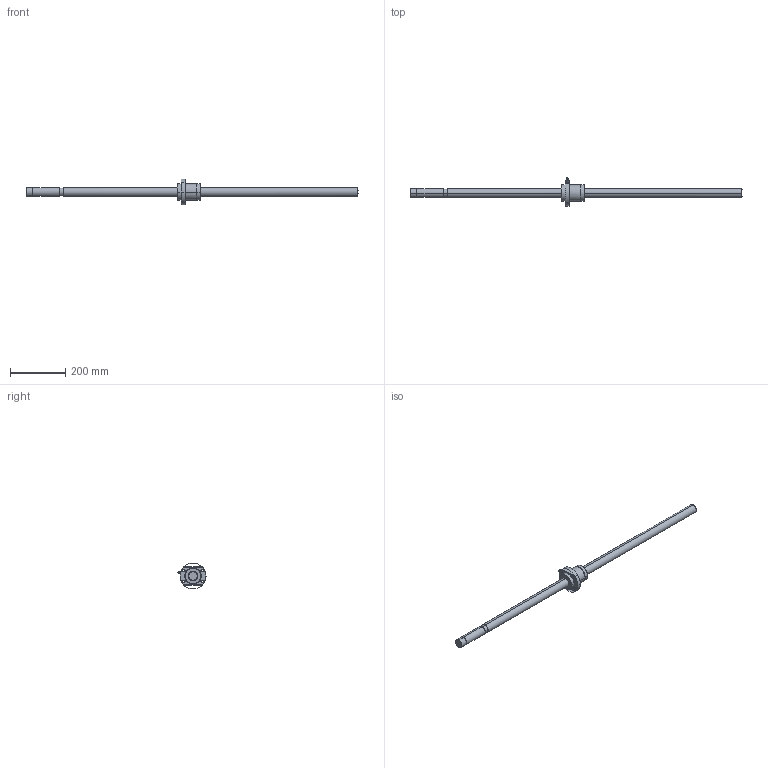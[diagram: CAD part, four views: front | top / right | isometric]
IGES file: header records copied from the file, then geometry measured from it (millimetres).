
Global section: file name: No Iges File Name specified; native system: AutoDesk Inventor R10; preprocessor: AutoDesk Inventor Iges Exporter R10; author: No Author specified; organization: No Organization specified; date: 20101224.134726; units: millimetre
Bounding box: 1200 x 101.33 x 93.94 mm (x, y, z)
Surface area: 161752.2 mm2 (no closed solid volume)
Topology: 0 solids, 0 shells, 78 faces, 478 edges, 474 vertices
Faces by surface type: bspline 78
